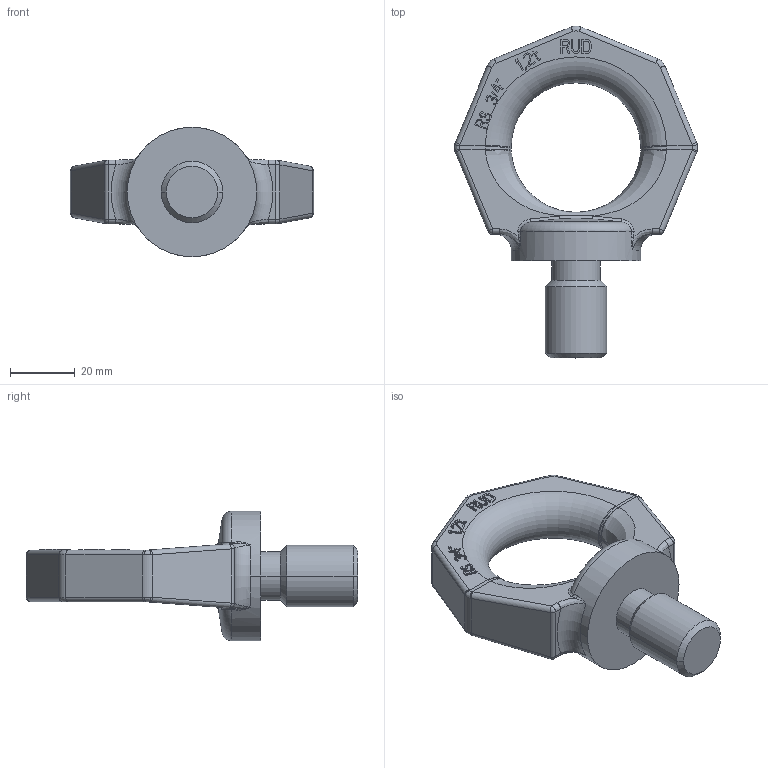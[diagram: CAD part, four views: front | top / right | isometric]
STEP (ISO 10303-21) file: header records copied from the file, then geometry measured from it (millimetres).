
FILE_DESCRIPTION((''),'2;1');
FILE_NAME('001-M31076-X13_ASM','2005-01-11T',('jakubetz'),(''),'PRO/ENGINEER BY PARAMETRIC TECHNOLOGY CORPORATION, 2001400','PRO/ENGINEER BY PARAMETRIC TECHNOLOGY CORPORATION, 2001400','');
FILE_SCHEMA(('CONFIG_CONTROL_DESIGN'));
Length unit declared in the file: millimetre
Products named in the file (3): 001-M31076-X13; 001-M31076-Y13; 001-M31076-X13_ASM
Assembly tree (2 placements, depth 2):
  001-M31076-X13_ASM
    001-M31076-X13
    001-M31076-Y13
Bounding box: 75.09 x 102.54 x 40 mm (x, y, z)
Volume: 59898.5 mm3; surface area: 14295.6 mm2
Topology: 2 solids, 2 shells, 442 faces, 1185 edges, 760 vertices
Faces by surface type: plane 337, bspline 44, cylinder 36, torus 15, cone 6, sphere 4
Entity records: 16128 total; most frequent: CARTESIAN_POINT 5288, ORIENTED_EDGE 2370, DIRECTION 2011, EDGE_CURVE 1185, VECTOR 969, LINE 969, VERTEX_POINT 760, AXIS2_PLACEMENT_3D 521
